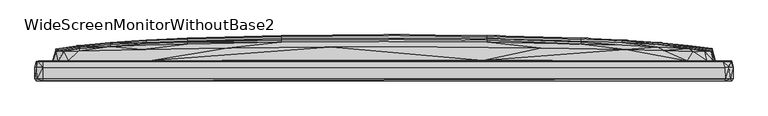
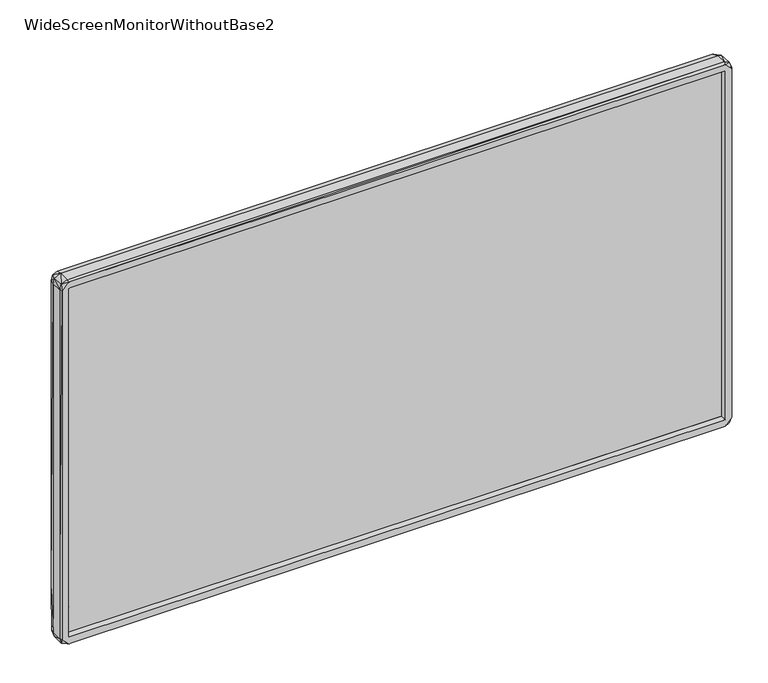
"""IFC4 building model written with IfcOpenShell, lengths in millimetres: furniture geometry, WideScreenMonitorWithoutBase2 : 1.671 m x 0.111 m."""

from ifc_helpers import new_model, si_unit, origin, place, context, project, spatial, triangles, source, transform, mapped, element, save


def widescreenmonitorwithoutbase2_0dbde744(model_context):
    return source(origin(), model_context, "Body", "Tessellation", [
        triangles([(812.3749048, 9.0863305, 25.379224), (812.3749048, 9.0863305, 932.4300041), (812.3749048, 4.9325148, 25.379224), (812.3749048, 4.9325148, 932.4300041), (-812.423521, 4.9324246, 932.4300041), (-812.423521, 9.0862391, 932.4300041), (-812.423521, 9.0862391, 25.379224), (-812.423521, 4.9324246, 25.379224)], [[1, 2, 3], [3, 2, 4], [5, 4, 2], [5, 2, 6], [7, 1, 3], [7, 3, 8], [7, 6, 1], [7, 8, 5], [7, 5, 6], [8, 3, 4], [8, 4, 5], [1, 6, 2]]),
        triangles([(-17.4292629, 15.5701048, 816.351915), (812.4064436, 15.3021649, 932.4721527), (-812.4265005, 15.3020729, 932.4721527), (792.7093174, 42.9049302, 876.9172588), (786.1436571, 66.0414631, 858.6940979), (783.1957993, 65.2374924, 881.5543304), (788.2874943, 42.7709358, 896.963637), (832.2375732, 42.100964, 834.0391348), (829.6916531, 41.9669696, 944.2635841), (835.5874414, 27.2276349, 937.429917), (-786.2977175, 67.9172888, 806.5703173), (-784.2878111, 65.5053993, 874.5053421), (-728.947221, 72.4730927, 829.0814432), (-779.865988, 42.7708495, 907.4152519), (-766.7345221, 64.9694219, 903.3954391), (-730.4210409, 66.0413813, 913.1770369), (-655.9193384, 77.0288829, 828.1434917), (-578.8717157, 70.7311796, 913.4449711), (-569.3581613, 80.3787511, 836.1830446), (-470.7374731, 83.4606033, 836.1830446), (-375.8686272, 74.0810341, 913.4449711), (-245.8922948, 87.6144377, 836.1830446), (-127.3065099, 75.82297, 913.4449711), (-0.0100432, 88.9543995, 836.1830446), (125.0085215, 75.8229881, 913.4449711), (245.8722197, 87.614465, 836.1830446), (375.8485339, 74.0810796, 913.4449711), (470.7174162, 83.4606669, 836.1830446), (578.8516225, 70.7312386, 913.4449711), (569.338068, 80.3788056, 836.1830446), (655.8992815, 76.6269816, 836.1830446), (669.1647509, 68.3193491, 913.4449711), (728.9270914, 72.0711868, 836.1830446), (740.0485783, 65.63948, 912.9089573), (767.3844824, 64.9695082, 902.9934288), (-835.7414291, 27.0935475, 936.8939758), (-835.7414291, -0.5092237, 937.429917), (-832.9276474, 27.0935475, 948.6854073), (-831.9896233, 41.9668833, 935.6880175), (-832.2576302, -5.4670026, 936.8939758), (-831.4536821, -0.5092234, 950.4273067), (-816.5803894, 27.0935475, 957.6629843), (-828.5058243, 41.9668833, 948.5514038), (-816.5803894, -5.467002, 954.179258), (-816.8483236, -5.467002, 937.429917), (-816.446386, -0.5092226, 957.6629843), (-816.7143202, 41.9668833, 954.0451818), (-812.4265005, 4.9845323, 932.4721527), (812.4064436, 4.9846226, 932.4721527), (816.8282667, -5.4669106, 937.429917), (816.2922529, -5.4669106, 954.179258), (-755.6119452, 42.9048484, 918.5368114), (-556.2267317, 43.7088192, 920.2786383), (235.9566549, 44.244842, 920.2786383), (811.0664818, 41.9669696, 954.179258), (815.8903152, 27.0936383, 957.7969877), (816.5601871, -0.5091318, 957.7969877), (725.9792336, 43.03892, 920.1447075), (773.9501427, 42.7709358, 912.2390854), (825.8058437, 28.0315966, 955.1171368), (831.9695663, -5.46691, 937.8319273), (828.7537016, -0.509131, 953.2412338), (835.7214449, -0.5091307, 937.1619101), (-835.7414291, 27.0935475, 20.9531587), (-835.7414291, -0.5092237, 20.5511756), (-832.7935713, 27.0935475, 9.161683), (-830.6497341, 41.9668833, 14.6554383), (-832.2576302, 42.1008732, 124.0759749), (-831.4536821, -0.5092234, 7.0177794), (-831.9896233, -5.4670026, 20.0151982), (-816.3123098, 27.0935475, 0.0500894), (-816.446386, -0.5092226, 0.0500894), (-816.8483236, -5.467002, 20.2831869), (-816.1783791, -5.467002, 3.667928), (-817.5182682, 41.9668833, 3.8019223), (-788.3076239, 42.7708495, 60.7493851), (-773.9701996, 42.7708495, 45.4740684), (811.0664818, 41.9669696, 3.667928), (816.4262564, 27.0936383, 0.0500894), (-736.1828259, 42.9048484, 37.5684168), (-224.5872544, 44.512799, 37.5684168), (816.8282667, -5.4669106, 20.2831869), (-812.4265005, 4.9845323, 25.3749591), (816.2922529, -0.5091318, 0.0500894), (816.5601871, -5.4669106, 3.8019223), (812.4064436, 4.9846226, 25.3749591), (-812.4265005, 15.3020729, 25.3749591), (812.4064436, 15.3021649, 25.3749591), (20.7590322, 15.570107, 141.495215), (352.5325516, 15.5701252, 360.0157067), (-287.163522, 15.57009, 582.4220078), (-783.0818527, 65.2374015, 76.0247018), (-767.1366051, 64.9694219, 54.4516682), (-792.7293743, 42.9048439, 80.7959131), (-734.7089333, 65.7733881, 44.2681191), (-632.7384132, 69.257237, 44.000135), (416.9847221, 44.1108568, 37.5684168), (-371.04483, 74.0810341, 44.000135), (-144.1897453, 75.6889801, 44.000135), (145.2416161, 75.8229881, 44.000135), (361.2431754, 74.2150785, 44.000135), (552.8568066, 71.2672115, 44.000135), (750.5001205, 42.9049302, 38.5063751), (734.9568832, 65.7734653, 44.4021135), (766.5804617, 64.9695082, 53.9156907), (779.8458584, 42.7709358, 50.4318463), (832.2375732, 41.9669696, 23.2310584), (792.9772516, 42.9049302, 82.939823), (783.8656712, 65.5054902, 82.5378399), (829.1557119, 27.6296158, 5.1418629), (829.8257292, 41.5649911, 11.4395804), (829.1557119, -0.509131, 4.6058865), (835.7214449, -0.5091307, 20.5511756), (832.2375732, -5.46691, 20.9531587), (835.7214449, 27.0936406, 20.8191621), (793.2453312, 43.7088964, 504.8921107), (-786.0297106, 66.0413723, 98.7511126), (-728.947221, 75.9569325, 211.3874969), (-599.6418506, 79.0388075, 121.2621114), (-655.9193384, 81.7186766, 212.5934552), (-470.7374731, 83.4606033, 121.2621114), (-245.8922948, 87.6144377, 121.2621114), (-0.0100432, 88.9543995, 121.2621114), (245.8722197, 87.614465, 121.2621114), (470.7174162, 83.4606669, 121.2621114), (655.8992815, 68.7213322, 44.000135), (569.338068, 80.3788056, 121.2621114), (655.8992815, 76.6269816, 121.2621114), (728.9270914, 72.0711868, 121.2621114), (-793.2653154, 43.7088055, 452.9550193), (-786.2977175, 69.659211, 216.0773087), (786.2775879, 69.2573188, 197.9881149), (-569.3581613, 86.4084703, 213.1294327), (-470.7374731, 87.6144286, 170.1173597), (-245.8922948, 92.4382167, 170.1173597), (-0.0100435, 94.0461763, 170.1173597), (245.8722197, 92.438253, 170.1173597), (470.7174162, 87.6144831, 170.1173597), (569.338068, 84.1306387, 170.1173597), (655.8992815, 81.4507696, 206.8317066), (728.9270914, 75.5550357, 201.2039615), (-786.2977175, 71.9371061, 403.3771952), (-728.947221, 79.0387984, 346.75031), (-655.9193384, 85.6045132, 346.75031), (-569.3581613, 91.2322583, 346.75031), (-470.7374731, 91.098264, 224.6529117), (-470.7374731, 95.7880576, 346.75031), (-245.8922948, 96.4580567, 224.6529117), (-245.8922948, 101.8178041, 346.75031), (-0.0100437, 98.1999744, 224.6529117), (-0.010044, 103.8277377, 346.75031), (245.8722197, 96.458084, 224.6529117), (245.8722197, 101.8178313, 346.75031), (470.7174162, 91.0983275, 224.6529117), (470.7174162, 95.7881121, 346.75031), (569.338068, 87.0785057, 224.6529117), (569.338068, 91.2323219, 346.75031), (655.8992815, 85.6045858, 346.75031), (728.9270914, 79.038871, 346.75031), (786.2775879, 71.1332353, 305.6667349), (786.2775879, 72.0711959, 521.6413064), (786.2775879, 69.9272906, 726.8964741), (728.9270914, 79.9768225, 478.5478612), (-728.947221, 79.9767498, 478.5478612), (-655.9193384, 86.8104534, 478.5478612), (-569.3581613, 92.572202, 478.5478612), (-470.7374731, 97.2619956, 478.5478612), (-245.8922948, 103.5597217, 478.5478612), (-0.0100441, 105.7036497, 478.5478612), (245.8722197, 103.559758, 478.5478612), (470.7174162, 97.2620502, 478.5478612), (569.338068, 92.5722656, 478.5478612), (655.8992815, 86.810526, 478.5478612), (-792.9974539, 42.9048439, 875.1753593), (-786.2977175, 70.9991547, 653.7882912), (-728.947221, 79.0387984, 610.4267664), (-655.9193384, 85.6045132, 610.4267664), (-569.3581613, 91.2322583, 610.4267664), (-470.7374731, 95.7880576, 610.4267664), (-245.8922948, 101.8178041, 610.4267664), (-0.010044, 103.8277377, 610.4267664), (245.8722197, 101.8178313, 610.4267664), (470.7174162, 95.7881121, 610.4267664), (569.338068, 91.2323219, 610.4267664), (655.8992815, 85.6045858, 610.4267664), (728.9270914, 79.038871, 610.4267664), (-728.947221, 76.4929145, 732.6581863), (-655.9193384, 82.254654, 732.6581863), (-569.3581613, 87.0784421, 732.6581863), (-470.7374731, 91.098264, 732.6581863), (-245.8922948, 96.4580567, 732.6581863), (-0.0100437, 98.1999744, 732.6581863), (245.8722197, 96.458084, 732.6581863), (470.7174162, 91.0983275, 732.6581863), (569.338068, 86.4085339, 744.1816835), (655.8992815, 81.7187493, 744.7176247), (728.9270914, 75.9570097, 745.9237284), (-569.3581613, 84.1305752, 787.193811), (-470.7374731, 87.6144286, 787.193811), (-245.8922948, 92.4382167, 787.193811), (-0.0100435, 94.0461763, 787.193811), (245.8722197, 92.438253, 787.193811), (470.7174162, 87.6144831, 787.193811)], [[1, 2, 3], [4, 5, 6], [4, 6, 7], [4, 7, 8], [8, 7, 9], [8, 9, 10], [11, 12, 13], [12, 14, 15], [12, 15, 13], [13, 15, 16], [13, 16, 17], [17, 16, 18], [17, 18, 19], [19, 18, 20], [20, 18, 21], [20, 21, 22], [22, 21, 23], [22, 23, 24], [24, 23, 25], [24, 25, 26], [26, 25, 27], [26, 27, 28], [28, 27, 29], [28, 29, 30], [30, 29, 31], [31, 29, 32], [31, 32, 33], [33, 32, 34], [33, 34, 35], [33, 35, 6], [33, 6, 5], [36, 37, 38], [36, 38, 39], [37, 40, 41], [37, 41, 38], [38, 41, 42], [38, 42, 43], [38, 43, 39], [40, 44, 41], [40, 45, 44], [39, 43, 14], [41, 44, 46], [41, 46, 42], [43, 42, 47], [43, 47, 14], [45, 48, 49], [45, 49, 50], [45, 51, 44], [45, 50, 51], [47, 52, 14], [47, 53, 52], [47, 54, 53], [47, 55, 54], [47, 42, 56], [47, 56, 55], [42, 46, 56], [44, 51, 57], [44, 57, 46], [46, 57, 56], [48, 3, 2], [48, 2, 49], [14, 52, 15], [52, 53, 16], [52, 16, 15], [53, 54, 23], [53, 18, 16], [53, 21, 18], [53, 23, 21], [54, 55, 58], [54, 58, 29], [54, 25, 23], [54, 27, 25], [54, 29, 27], [58, 55, 59], [58, 59, 34], [58, 32, 29], [58, 34, 32], [59, 7, 35], [59, 35, 34], [59, 55, 9], [59, 9, 7], [7, 6, 35], [55, 56, 60], [55, 60, 9], [56, 57, 60], [51, 50, 61], [51, 62, 57], [51, 61, 62], [57, 62, 60], [60, 62, 10], [60, 10, 9], [62, 61, 63], [62, 63, 10], [64, 65, 37], [64, 66, 65], [64, 67, 66], [64, 68, 67], [64, 36, 68], [64, 37, 36], [65, 66, 69], [65, 70, 40], [65, 69, 70], [65, 40, 37], [66, 67, 71], [66, 71, 69], [70, 69, 72], [70, 73, 45], [70, 74, 73], [70, 45, 40], [70, 72, 74], [69, 71, 72], [67, 75, 71], [67, 76, 77], [67, 77, 75], [67, 68, 76], [75, 78, 79], [75, 79, 71], [75, 77, 80], [75, 80, 81], [75, 81, 78], [73, 82, 83], [73, 74, 82], [73, 83, 48], [73, 48, 45], [72, 84, 74], [72, 71, 84], [71, 79, 84], [74, 85, 82], [74, 84, 85], [83, 86, 87], [83, 82, 86], [83, 87, 3], [83, 3, 48], [87, 86, 88], [87, 88, 89], [87, 89, 90], [87, 90, 91], [87, 91, 3], [76, 92, 93], [76, 93, 77], [76, 94, 92], [76, 68, 94], [77, 93, 95], [77, 95, 80], [80, 95, 96], [80, 96, 81], [81, 97, 78], [81, 96, 98], [81, 98, 99], [81, 99, 100], [81, 100, 101], [81, 101, 102], [81, 102, 97], [97, 103, 78], [97, 102, 103], [103, 102, 104], [103, 104, 105], [103, 105, 106], [103, 106, 78], [106, 107, 78], [106, 108, 107], [106, 105, 109], [106, 109, 108], [78, 110, 79], [78, 111, 110], [78, 107, 111], [88, 90, 89], [88, 2, 90], [86, 82, 49], [86, 49, 88], [88, 49, 2], [84, 79, 110], [84, 110, 112], [84, 112, 85], [85, 112, 113], [85, 114, 82], [85, 113, 114], [82, 50, 49], [82, 114, 50], [110, 111, 115], [110, 113, 112], [110, 115, 113], [111, 107, 115], [107, 108, 116], [107, 116, 8], [107, 8, 10], [107, 10, 115], [114, 113, 63], [114, 63, 61], [114, 61, 50], [113, 115, 63], [115, 10, 63], [92, 95, 93], [92, 117, 118], [92, 119, 95], [92, 118, 120], [92, 120, 119], [92, 94, 117], [95, 119, 96], [96, 119, 121], [96, 121, 98], [98, 121, 122], [98, 122, 99], [99, 122, 123], [99, 123, 100], [100, 123, 124], [100, 124, 101], [101, 124, 125], [101, 125, 102], [102, 126, 104], [102, 125, 127], [102, 127, 128], [102, 128, 126], [126, 128, 129], [126, 129, 104], [104, 129, 105], [105, 129, 109], [68, 36, 39], [68, 130, 94], [68, 39, 130], [94, 131, 117], [94, 130, 131], [108, 109, 132], [108, 132, 116], [117, 131, 118], [119, 120, 133], [119, 133, 134], [119, 134, 121], [121, 134, 135], [121, 135, 122], [122, 135, 136], [122, 136, 123], [123, 136, 137], [123, 137, 124], [124, 137, 138], [124, 138, 125], [125, 138, 139], [125, 139, 127], [127, 139, 140], [127, 140, 128], [128, 140, 141], [128, 141, 129], [129, 141, 109], [109, 141, 132], [131, 130, 11], [131, 11, 142], [131, 143, 118], [131, 142, 143], [118, 143, 144], [118, 144, 120], [120, 144, 145], [120, 145, 133], [133, 146, 134], [133, 145, 147], [133, 147, 146], [146, 148, 134], [146, 147, 149], [146, 149, 148], [134, 148, 135], [148, 150, 135], [148, 149, 151], [148, 151, 150], [135, 150, 136], [136, 150, 152], [136, 152, 137], [150, 151, 153], [150, 153, 152], [152, 154, 137], [152, 153, 155], [152, 155, 154], [137, 154, 138], [154, 156, 138], [154, 155, 157], [154, 157, 156], [138, 156, 139], [139, 156, 140], [156, 157, 158], [156, 158, 140], [140, 158, 159], [140, 159, 141], [141, 160, 132], [141, 159, 160], [132, 160, 161], [132, 161, 162], [132, 162, 116], [160, 159, 163], [160, 163, 161], [90, 2, 91], [143, 142, 164], [143, 164, 165], [143, 165, 144], [144, 165, 166], [144, 166, 145], [145, 166, 167], [145, 167, 147], [147, 167, 168], [147, 168, 149], [149, 168, 169], [149, 169, 151], [151, 169, 170], [151, 170, 153], [153, 170, 171], [153, 171, 155], [155, 171, 172], [155, 172, 157], [157, 172, 173], [157, 173, 158], [158, 173, 163], [158, 163, 159], [130, 174, 11], [130, 39, 174], [142, 175, 164], [142, 11, 175], [164, 176, 177], [164, 177, 165], [164, 175, 176], [165, 177, 178], [165, 178, 166], [166, 178, 179], [166, 179, 167], [167, 179, 180], [167, 180, 168], [168, 180, 181], [168, 181, 169], [169, 181, 182], [169, 182, 170], [170, 182, 183], [170, 183, 171], [171, 183, 184], [171, 184, 172], [172, 184, 185], [172, 185, 173], [173, 185, 186], [173, 186, 163], [163, 186, 161], [116, 4, 8], [116, 162, 4], [161, 186, 162], [91, 1, 3], [91, 2, 1], [176, 175, 187], [176, 187, 188], [176, 188, 177], [177, 188, 189], [177, 189, 178], [178, 189, 190], [178, 190, 179], [179, 190, 191], [179, 191, 180], [180, 191, 192], [180, 192, 181], [181, 192, 193], [181, 193, 182], [182, 193, 194], [182, 194, 183], [183, 194, 195], [183, 195, 184], [184, 195, 196], [184, 196, 185], [185, 196, 197], [185, 197, 186], [186, 197, 162], [175, 11, 187], [187, 11, 13], [187, 13, 17], [187, 17, 188], [188, 198, 189], [188, 17, 198], [189, 198, 199], [189, 199, 190], [198, 17, 19], [198, 19, 20], [198, 20, 199], [190, 199, 200], [190, 200, 191], [199, 20, 22], [199, 22, 200], [191, 200, 201], [191, 201, 192], [200, 22, 24], [200, 24, 201], [192, 201, 202], [192, 202, 193], [201, 24, 26], [201, 26, 202], [202, 203, 193], [202, 26, 28], [202, 28, 203], [193, 203, 194], [194, 203, 195], [203, 28, 30], [203, 30, 195], [195, 30, 31], [195, 31, 196], [196, 31, 33], [196, 33, 197], [197, 33, 5], [197, 5, 162], [162, 5, 4], [174, 39, 14], [174, 12, 11], [174, 14, 12]]),
    ])


if __name__ == "__main__":
    model = new_model("IFC4")
    model_context = context("Model", 3, world=origin())
    ifc_project = project(units=[si_unit("LENGTHUNIT", "METRE", prefix="MILLI")], contexts=[model_context])
    site = spatial("IfcSite", under=ifc_project)
    building = spatial("IfcBuilding", under=site)
    placement = place(None, origin())
    widescreenmonitorwithoutbase2_shape = widescreenmonitorwithoutbase2_0dbde744(model_context)
    element("IfcFurniture", 1, ObjectType="WideScreenMonitorWithoutBase2 : 1.671 m x 0.111 m", at=placement, inside=building, context=model_context, shape_type="MappedRepresentation", body=[
        mapped(widescreenmonitorwithoutbase2_shape, transform((0.0, 0.0, 0.0), x_axis=(1.0, 0.0, 0.0), y_axis=(0.0, 1.0, 0.0), z_axis=(0.0, 0.0, 1.0))),
    ])
    save(model, "model.ifc")
